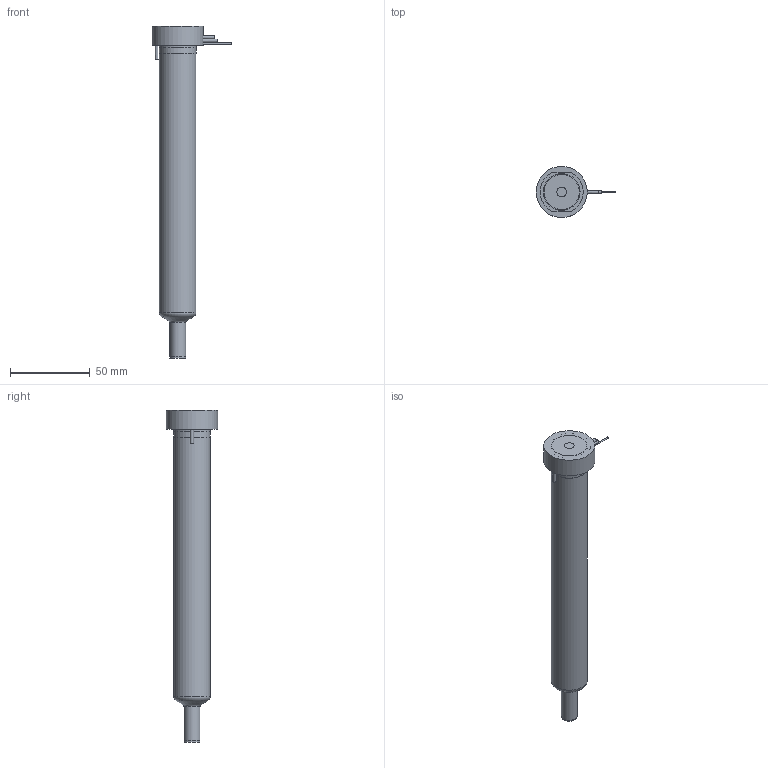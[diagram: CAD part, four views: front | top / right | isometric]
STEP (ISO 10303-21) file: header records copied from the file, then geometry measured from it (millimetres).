
FILE_DESCRIPTION(/* description */ (''),/* implementation_level */ '2;1');
FILE_NAME(/* name */ 'MXYCN13175P4F_250C_a',/* time_stamp */ '2016-02-26T13:45:42+13:00',/* author */ (''),/* organization */ (''),/* preprocessor_version */ 'ST-DEVELOPER v9',/* originating_system */ 'UGS - NX 4.0',/* authorisation */ '');
FILE_SCHEMA (('CONFIG_CONTROL_DESIGN'));
Length unit declared in the file: millimetre
Products named in the file (1): matt70754g36
Bounding box: 49.95 x 32 x 207.86 mm (x, y, z)
Volume: 136543.1 mm3; surface area: 29990.8 mm2
Topology: 2 solids, 2 shells, 71 faces, 156 edges, 102 vertices
Faces by surface type: plane 31, cylinder 26, torus 7, cone 5, bspline 1, sphere 1
Full cylindrical faces by diameter (mm): 1 x2, 1.8 x1, 2 x3, 4 x1, 6 x1, 9.61 x1, 9.995 x2, 12.6 x1, 18.8 x1, 22.9 x1, 23 x2, 32 x1
Entity records: 2121 total; most frequent: CARTESIAN_POINT 614, DIRECTION 314, ORIENTED_EDGE 234, AXIS2_PLACEMENT_3D 141, EDGE_CURVE 117, EDGE_LOOP 114, VERTEX_POINT 91, ADVANCED_FACE 71
